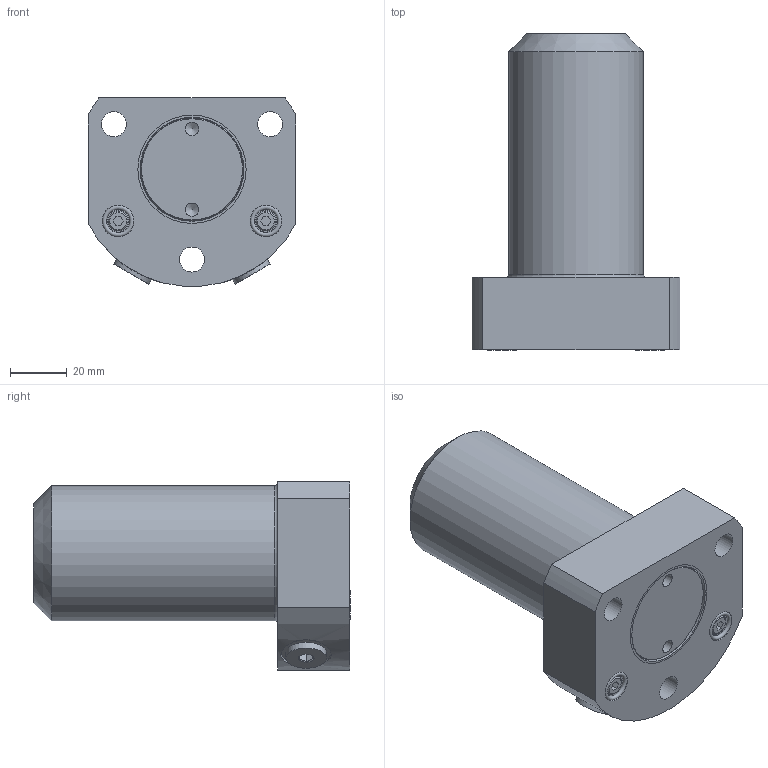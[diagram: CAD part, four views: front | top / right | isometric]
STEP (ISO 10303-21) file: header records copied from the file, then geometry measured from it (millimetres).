
FILE_DESCRIPTION(/* description */ ('NOT SPECIFIED'),/* implementation_level */ '2;1');
FILE_NAME(/* name */ 'PLSD121body.stp',/* time_stamp */ '2026-03-15T09:36:06-03:00',/* author */ ('cpEwe'),/* organization */ (''),/* preprocessor_version */ 'ST-DEVELOPER v20.1',/* originating_system */ 'Autodesk Inventor 2026',/* authorisation */ '');
FILE_SCHEMA (('AUTOMOTIVE_DESIGN { 1 0 10303 214 3 1 1 }'));
Length unit declared in the file: inch
Products named in the file (8): PLSD121.STP; PA1116005.STP; B1003006V.STP; PA1303167.STP; CCA411028.STP; B1011803.STP; PA1066044.STP; B1003006.STP
Assembly tree (10 placements, depth 2):
  PLSD121.STP
    PA1116005.STP
    B1003006V.STP
    PA1303167.STP  x2
    CCA411028.STP  x2
    B1011803.STP  x2
    PA1066044.STP
    B1003006.STP
Bounding box: 73.15 x 111.46 x 66.28 mm (x, y, z)
Volume: 180703.9 mm3; surface area: 51004.3 mm2
Topology: 10 solids, 15 shells, 173 faces, 361 edges, 232 vertices
Faces by surface type: plane 83, cylinder 55, cone 28, torus 7
Full cylindrical faces by diameter (mm): 3.299 x2, 4 x4, 4.039 x2, 4.699 x2, 4.775 x2, 6.731 x2, 7 x2, 7.747 x2, 8.801 x3, 9.246 x2, 9.921 x2, 11.112 x3, 11.151 x2, 12.954 x3, 14.224 x2, 19.05 x1, 22.276 x1, 29.794 x1, 30.48 x1, 31.648 x1, 31.775 x1, 32.004 x1, 35.56 x1, 36.068 x1, 36.551 x1, 38.1 x2, 47.498 x1
Entity records: 4792 total; most frequent: CARTESIAN_POINT 1076, DIRECTION 790, ORIENTED_EDGE 620, AXIS2_PLACEMENT_3D 325, EDGE_CURVE 317, VERTEX_POINT 207, EDGE_LOOP 196, FACE_OUTER_BOUND 154
